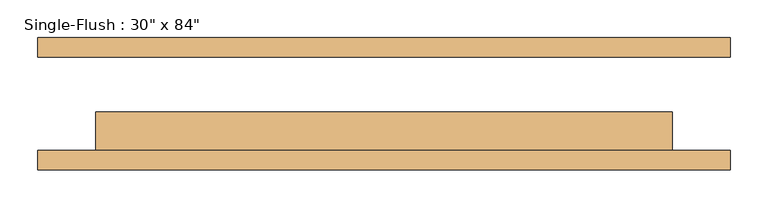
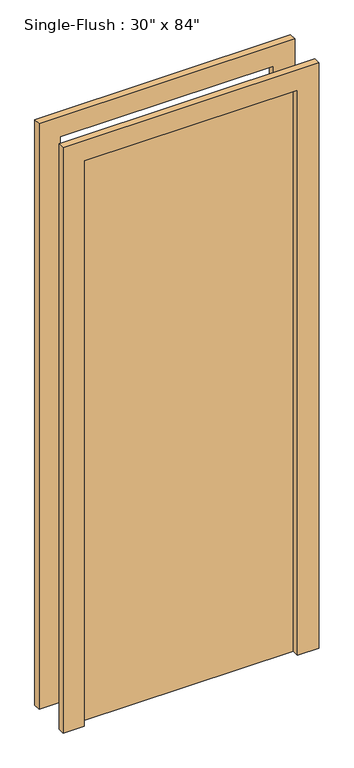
"""IFC4 building model written with IfcOpenShell, lengths in millimetres: door geometry."""

from ifc_helpers import new_model, si_unit, frame, origin, origin_with_axes, place, context, project, spatial, polyline, outline, extrude, source, transform, mapped, element, save


def door_702a1063(model_context):
    return source(origin(), model_context, "Body", "SweptSolid", [
        extrude(outline(polyline([(2209.8, -457.2), (0.0, -457.2), (0.0, -381.0), (2133.6, -381.0), (2133.6, 381.0), (0.0, 381.0), (0.0, 457.2), (2209.8, 457.2), (2209.8, -457.2)])), frame((0.0, -87.3125, 0.0), z_axis=(0.0, 1.0, 0.0), x_axis=(0.0, 0.0, 1.0)), (0.0, 0.0, 1.0), 25.4),
        extrude(outline(polyline([(2209.8, 457.2), (2209.8, -457.2), (0.0, -457.2), (0.0, -381.0), (2133.6, -381.0), (2133.6, 381.0), (0.0, 381.0), (0.0, 457.2), (2209.8, 457.2)])), frame((0.0, 61.9125, 0.0), z_axis=(0.0, 1.0, 0.0), x_axis=(0.0, 0.0, 1.0)), (0.0, 0.0, 1.0), 25.4),
        extrude(outline(polyline([(381.0, -11.1125), (381.0, -61.9125), (-381.0, -61.9125), (-381.0, -11.1125), (381.0, -11.1125)])), origin_with_axes(), (0.0, 0.0, 1.0), 2133.6),
    ])


if __name__ == "__main__":
    model = new_model("IFC4")
    model_context = context("Model", 3, world=origin())
    ifc_project = project(units=[si_unit("LENGTHUNIT", "METRE", prefix="MILLI")], contexts=[model_context])
    site = spatial("IfcSite", under=ifc_project)
    building = spatial("IfcBuilding", under=site)
    placement = place(None, origin())
    door_shape = door_702a1063(model_context)
    element("IfcDoor", 1, ObjectType="Single-Flush : 30\" x 84\"", at=placement, inside=building, context=model_context, shape_type="MappedRepresentation", body=[
        mapped(door_shape, transform((0.0, 0.0, 0.0), x_axis=(1.0, 0.0, 0.0), y_axis=(0.0, 1.0, 0.0), z_axis=(0.0, 0.0, 1.0))),
    ])
    save(model, "model.ifc")
